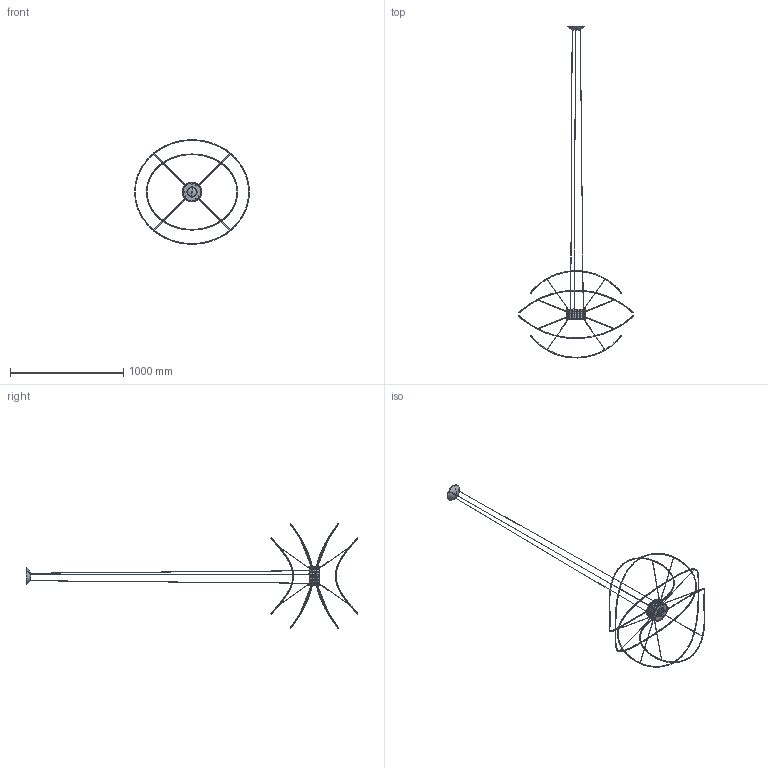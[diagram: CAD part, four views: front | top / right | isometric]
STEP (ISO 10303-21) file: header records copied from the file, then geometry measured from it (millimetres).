
FILE_DESCRIPTION (( 'STEP AP203' ), '1' );
FILE_NAME ('SPHOOPS4XXXXLED-3D.STEP', '2015-02-24T18:52:20', ( '' ), ( '' ), 'SwSTEP 2.0', 'SolidWorks 2014', '' );
FILE_SCHEMA (( 'CONFIG_CONTROL_DESIGN' ));
Length unit declared in the file: millimetre
Products named in the file (18): WSAXO018CMHB014500; WSAXO018CMHB010000; WSAXO018CMHF010000; WSAXO018CMHE010000; WSAXO018CMJB014500; WSAXO018CMHH010000; WSAXO018CMHG010000; WSAXO018CMJC014500; WSAXO018CMFB010000; MSPHOOPSLED-02-3D; WSAXO018CMCA014501; WSAXO018CMCE014502; WSCA10493000B2930B; ROSONESPHOOPSLED-3D; WSAXO018CMCI010001; MSPHOOPSLED-03-3D; MSPHOOPSLED-3D; SPHOOPS4XXXXLED-3D
Assembly tree (37 placements, depth 4):
  SPHOOPS4XXXXLED-3D
    WSAXO018CMHB014500  x10
    WSAXO018CMJB014500  x2
      WSAXO018CMHB010000
      WSAXO018CMHF010000
      WSAXO018CMHE010000
    WSAXO018CMJC014500  x2
      WSAXO018CMHB010000
      WSAXO018CMHH010000
      WSAXO018CMHG010000
    MSPHOOPSLED-3D
      MSPHOOPSLED-02-3D
        WSAXO018CMFB010000
      WSAXO018CMCA014501
      WSAXO018CMCE014502
      WSCA10493000B2930B  x3
      ROSONESPHOOPSLED-3D
      MSPHOOPSLED-03-3D
        WSAXO018CMCI010001
Bounding box: 1012 x 2929.41 x 920.95 mm (x, y, z)
Volume: 753580.6 mm3; surface area: 693569.1 mm2
Topology: 43 solids, 43 shells, 534 faces, 1343 edges, 864 vertices
Faces by surface type: cylinder 312, plane 118, torus 78, bspline 16, cone 10
Entity records: 17302 total; most frequent: CARTESIAN_POINT 3865, DIRECTION 2557, ORIENTED_EDGE 2210, EDGE_CURVE 1105, AXIS2_PLACEMENT_3D 1055, VERTEX_POINT 726, CIRCLE 618, EDGE_LOOP 483
